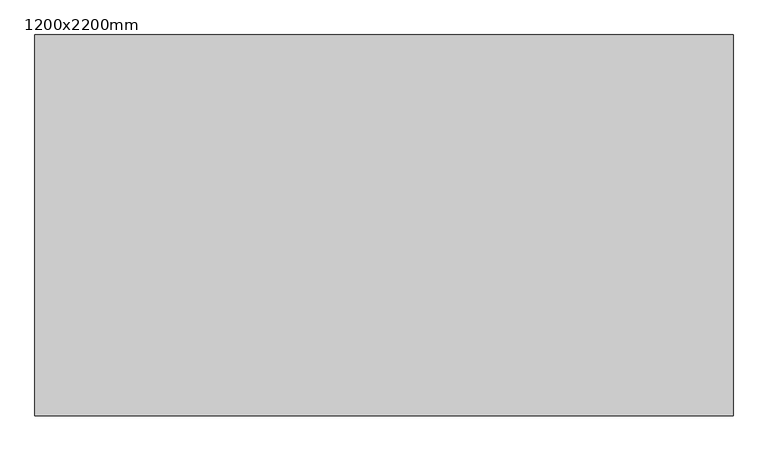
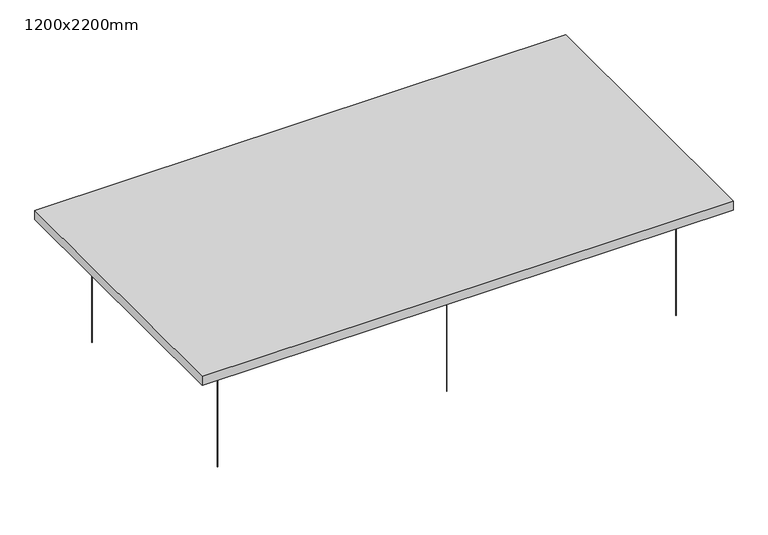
"""IFC4 building model written with IfcOpenShell, lengths in millimetres: proxy geometry, Phonic Silence Cloud Panel : 1200x2200mm."""

from ifc_helpers import new_model, si_unit, point, frame, frame_2d, origin, origin_with_axes, place, context, project, spatial, polyline, circle_curve, trimmed, segment, composite_curve, outline, extrude, source, transform, mapped, element, save


def proxy_1200x2200mm_9f85cad4(model_context):
    return source(origin(), model_context, "Body", "SweptSolid", [
        extrude(outline(composite_curve([segment(trimmed(circle_curve(frame_2d((950.0, -450.0)), 0.5), [point((949.5, -450.0))], [point((950.5, -450.0))], False, "CARTESIAN"), True, "CONTINUOUS"), segment(trimmed(circle_curve(frame_2d((950.0, -450.0)), 0.5), [point((950.5, -450.0))], [point((949.5, -450.0))], False, "CARTESIAN"), True, "CONTINUOUS")], self_intersect=False)), origin_with_axes(), (0.0, 0.0, 1.0), 500.0),
        extrude(outline(composite_curve([segment(trimmed(circle_curve(frame_2d((0.0, -450.0)), 0.5), [point((-0.5, -450.0))], [point((0.5, -450.0))], False, "CARTESIAN"), True, "CONTINUOUS"), segment(trimmed(circle_curve(frame_2d((0.0, -450.0)), 0.5), [point((0.5, -450.0))], [point((-0.5, -450.0))], False, "CARTESIAN"), True, "CONTINUOUS")], self_intersect=False)), origin_with_axes(), (0.0, 0.0, 1.0), 500.0),
        extrude(outline(composite_curve([segment(trimmed(circle_curve(frame_2d((-950.0, -450.0)), 0.5), [point((-950.5, -450.0))], [point((-949.5, -450.0))], False, "CARTESIAN"), True, "CONTINUOUS"), segment(trimmed(circle_curve(frame_2d((-950.0, -450.0)), 0.5), [point((-949.5, -450.0))], [point((-950.5, -450.0))], False, "CARTESIAN"), True, "CONTINUOUS")], self_intersect=False)), origin_with_axes(), (0.0, 0.0, 1.0), 500.0),
        extrude(outline(composite_curve([segment(trimmed(circle_curve(frame_2d((950.0, 450.0)), 0.5), [point((949.5, 450.0))], [point((950.5, 450.0))], False, "CARTESIAN"), True, "CONTINUOUS"), segment(trimmed(circle_curve(frame_2d((950.0, 450.0)), 0.5), [point((950.5, 450.0))], [point((949.5, 450.0))], False, "CARTESIAN"), True, "CONTINUOUS")], self_intersect=False)), origin_with_axes(), (0.0, 0.0, 1.0), 500.0),
        extrude(outline(composite_curve([segment(trimmed(circle_curve(frame_2d((0.0, 450.0)), 0.5), [point((-0.5, 450.0))], [point((0.5, 450.0))], False, "CARTESIAN"), True, "CONTINUOUS"), segment(trimmed(circle_curve(frame_2d((0.0, 450.0)), 0.5), [point((0.5, 450.0))], [point((-0.5, 450.0))], False, "CARTESIAN"), True, "CONTINUOUS")], self_intersect=False)), origin_with_axes(), (0.0, 0.0, 1.0), 500.0),
        extrude(outline(composite_curve([segment(trimmed(circle_curve(frame_2d((-950.0, 450.0)), 0.5), [point((-950.5, 450.0))], [point((-949.5, 450.0))], False, "CARTESIAN"), True, "CONTINUOUS"), segment(trimmed(circle_curve(frame_2d((-950.0, 450.0)), 0.5), [point((-949.5, 450.0))], [point((-950.5, 450.0))], False, "CARTESIAN"), True, "CONTINUOUS")], self_intersect=False)), origin_with_axes(), (0.0, 0.0, 1.0), 500.0),
        extrude(outline(polyline([(1100.0, 600.0), (1100.0, -600.0), (-1100.0, -600.0), (-1100.0, 600.0), (1100.0, 600.0)])), frame((0.0, 0.0, 500.0), z_axis=(0.0, 0.0, 1.0), x_axis=(1.0, 0.0, 0.0)), (0.0, 0.0, 1.0), 40.0),
    ])


if __name__ == "__main__":
    model = new_model("IFC4")
    model_context = context("Model", 3, world=origin())
    ifc_project = project(units=[si_unit("LENGTHUNIT", "METRE", prefix="MILLI")], contexts=[model_context])
    site = spatial("IfcSite", under=ifc_project)
    building = spatial("IfcBuilding", under=site)
    placement = place(None, origin())
    proxy_1200x2200mm_shape = proxy_1200x2200mm_9f85cad4(model_context)
    element("IfcBuildingElementProxy", 1, Name="Phonic Silence Cloud Panel : 1200x2200mm", ObjectType="Phonic Silence Cloud Panel : 1200x2200mm", at=placement, inside=building, context=model_context, shape_type="MappedRepresentation", body=[
        mapped(proxy_1200x2200mm_shape, transform((0.0, 0.0, 0.0), x_axis=(1.0, 0.0, 0.0), y_axis=(0.0, 1.0, 0.0), z_axis=(0.0, 0.0, 1.0))),
    ])
    save(model, "model.ifc")
